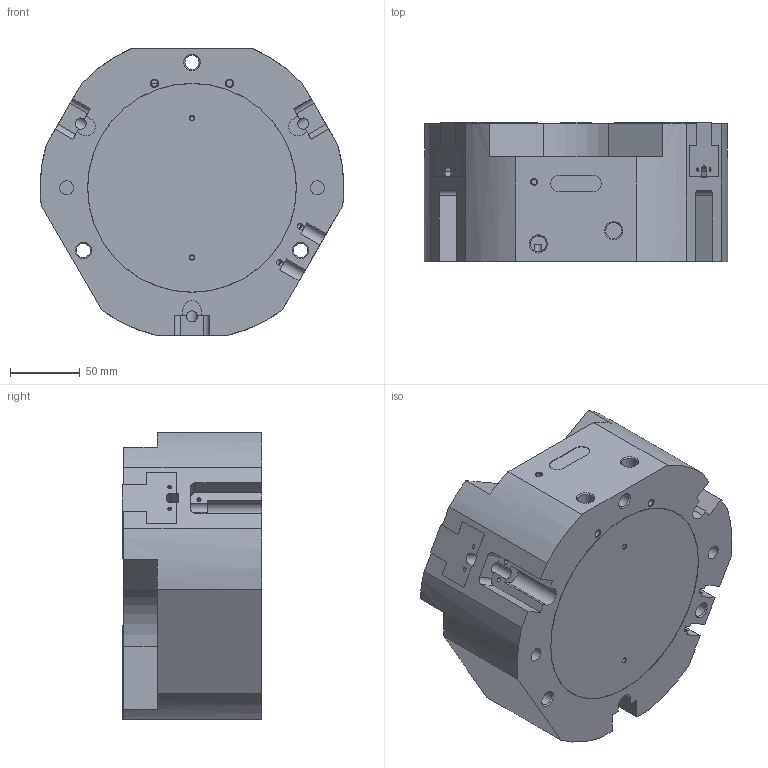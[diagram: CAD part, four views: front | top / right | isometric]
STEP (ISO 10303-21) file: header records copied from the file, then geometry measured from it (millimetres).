
FILE_DESCRIPTION( ( 'STEP AP214' ), '1' );
FILE_NAME( 'C:/Users/ashearer/Desktop/Mindman New CAD/Grippers/MCHJ-200-SD_0_.stp', ' ', ( ' ' ), ( ' ' ), 'PSStep 15.0.47', 'PARTsolutions', ' ' );
FILE_SCHEMA( ( 'AUTOMOTIVE_DESIGN { 1 0 10303 214 1 1 1 1 }' ) );
Length unit declared in the file: millimetre
Products named in the file (4): MCHJ-200-SD(0); _MCHJ-200-SD(dummy_0); _MCHJ-200-SD-body; _MCHJ-200-SD-finger
Assembly tree (5 placements, depth 2):
  MCHJ-200-SD(0)
    _MCHJ-200-SD(dummy_0)
    _MCHJ-200-SD-body
    _MCHJ-200-SD-finger  x3
Bounding box: 217.97 x 100 x 206 mm (x, y, z)
Volume: 3084795.3 mm3; surface area: 260484.7 mm2
Topology: 4 solids, 4 shells, 473 faces, 1196 edges, 773 vertices
Faces by surface type: plane 311, cylinder 120, cone 40, sphere 2
Full cylindrical faces by diameter (mm): 2.013 x12, 2.459 x6, 2.5 x6, 3.242 x2, 3.6 x6, 4.134 x1, 4.917 x2, 6.647 x9, 8 x3, 10 x2, 10.106 x3, 11.445 x2, 14 x9, 16.5 x3, 149.8 x1, 150 x1
Entity records: 12067 total; most frequent: CARTESIAN_POINT 1655, DIRECTION 1629, ORIENTED_EDGE 1494, EDGE_CURVE 747, AXIS2_PLACEMENT_3D 556, VERTEX_POINT 527, LINE 517, VECTOR 517
